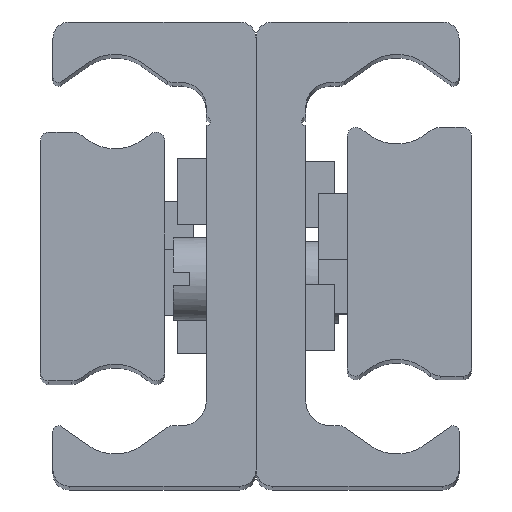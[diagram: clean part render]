
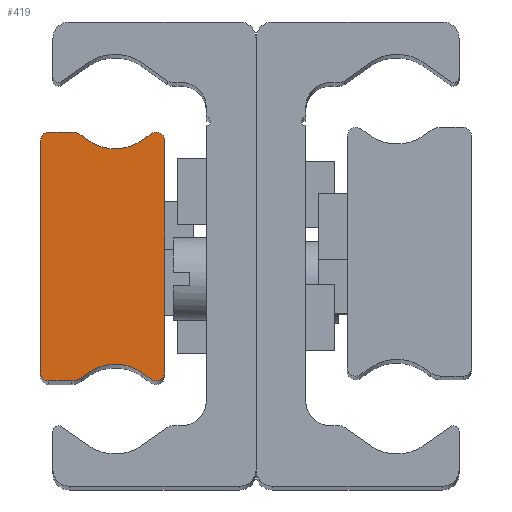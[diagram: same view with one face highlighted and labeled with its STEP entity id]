
A CAD part, top view. The second image highlights one B-rep face of the part: STEP entity #419.
In plain terms, the highlighted planar face has unit normal (0, 0, 1) as drawn and (0, 0, -1) by its records, which use the part's own axes.
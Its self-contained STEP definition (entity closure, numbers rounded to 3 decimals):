
#419 = ADVANCED_FACE( '', ( #828 ), #829, .F. );
#828 = FACE_OUTER_BOUND( '', #1218, .T. );
#829 = PLANE( '', #1219 );
#1218 = EDGE_LOOP( '', ( #2177, #2178, #2179, #2180, #2181, #2182, #2183, #2184, #2185, #2186, #2187, #2188, #2189, #2190, #2191, #2192 ) );
#1219 = AXIS2_PLACEMENT_3D( '', #2193, #2194, #2195 );
#2177 = ORIENTED_EDGE( '', *, *, #2361, .F. );
#2178 = ORIENTED_EDGE( '', *, *, #2380, .F. );
#2179 = ORIENTED_EDGE( '', *, *, #2399, .F. );
#2180 = ORIENTED_EDGE( '', *, *, #2649, .F. );
#2181 = ORIENTED_EDGE( '', *, *, #2337, .F. );
#2182 = ORIENTED_EDGE( '', *, *, #2650, .T. );
#2183 = ORIENTED_EDGE( '', *, *, #2375, .F. );
#2184 = ORIENTED_EDGE( '', *, *, #2371, .F. );
#2185 = ORIENTED_EDGE( '', *, *, #2449, .F. );
#2186 = ORIENTED_EDGE( '', *, *, #2580, .F. );
#2187 = ORIENTED_EDGE( '', *, *, #2384, .F. );
#2188 = ORIENTED_EDGE( '', *, *, #2624, .T. );
#2189 = ORIENTED_EDGE( '', *, *, #2638, .F. );
#2190 = ORIENTED_EDGE( '', *, *, #2589, .F. );
#2191 = ORIENTED_EDGE( '', *, *, #2603, .F. );
#2192 = ORIENTED_EDGE( '', *, *, #2621, .F. );
#2193 = CARTESIAN_POINT( '', ( 0.5, -7., -130. ) );
#2194 = DIRECTION( '', ( 0., 0., 1. ) );
#2195 = DIRECTION( '', ( 1., 0., 0. ) );
#2337 = EDGE_CURVE( '', #2784, #2786, #2787, .T. );
#2361 = EDGE_CURVE( '', #2826, #2828, #2829, .T. );
#2371 = EDGE_CURVE( '', #2844, #2846, #2847, .T. );
#2375 = EDGE_CURVE( '', #2846, #2852, #2853, .T. );
#2380 = EDGE_CURVE( '', #2858, #2826, #2860, .T. );
#2384 = EDGE_CURVE( '', #2865, #2867, #2868, .T. );
#2399 = EDGE_CURVE( '', #2891, #2858, #2893, .T. );
#2449 = EDGE_CURVE( '', #2967, #2844, #2969, .T. );
#2580 = EDGE_CURVE( '', #2867, #2967, #3155, .T. );
#2589 = EDGE_CURVE( '', #3163, #3165, #3166, .T. );
#2603 = EDGE_CURVE( '', #3181, #3163, #3183, .T. );
#2621 = EDGE_CURVE( '', #2828, #3181, #3204, .T. );
#2624 = EDGE_CURVE( '', #2865, #3206, #3208, .T. );
#2638 = EDGE_CURVE( '', #3165, #3206, #3222, .T. );
#2649 = EDGE_CURVE( '', #2786, #2891, #3234, .T. );
#2650 = EDGE_CURVE( '', #2784, #2852, #3235, .T. );
#2784 = VERTEX_POINT( '', #3410 );
#2786 = VERTEX_POINT( '', #3413 );
#2787 = LINE( '', #3414, #3415 );
#2826 = VERTEX_POINT( '', #3467 );
#2828 = VERTEX_POINT( '', #3470 );
#2829 = LINE( '', #3471, #3472 );
#2844 = VERTEX_POINT( '', #3492 );
#2846 = VERTEX_POINT( '', #3495 );
#2847 = CIRCLE( '', #3496, 0.523 );
#2852 = VERTEX_POINT( '', #3503 );
#2853 = LINE( '', #3504, #3505 );
#2858 = VERTEX_POINT( '', #3511 );
#2860 = CIRCLE( '', #3514, 0.5 );
#2865 = VERTEX_POINT( '', #3520 );
#2867 = VERTEX_POINT( '', #3523 );
#2868 = LINE( '', #3524, #3525 );
#2891 = VERTEX_POINT( '', #3556 );
#2893 = LINE( '', #3559, #3560 );
#2967 = VERTEX_POINT( '', #3658 );
#2969 = LINE( '', #3661, #3662 );
#3155 = CIRCLE( '', #3913, 0.523 );
#3163 = VERTEX_POINT( '', #3925 );
#3165 = VERTEX_POINT( '', #3928 );
#3166 = CIRCLE( '', #3929, 1. );
#3181 = VERTEX_POINT( '', #3949 );
#3183 = LINE( '', #3952, #3953 );
#3204 = CIRCLE( '', #3979, 0.5 );
#3206 = VERTEX_POINT( '', #3981 );
#3208 = CIRCLE( '', #3984, 2.778 );
#3222 = LINE( '', #4000, #4001 );
#3234 = CIRCLE( '', #4015, 1. );
#3235 = CIRCLE( '', #4016, 2.778 );
#3410 = CARTESIAN_POINT( '', ( 2.907, 6.997, -130. ) );
#3413 = CARTESIAN_POINT( '', ( 2.446, 7.319, -130. ) );
#3414 = CARTESIAN_POINT( '', ( 2.907, 6.997, -130. ) );
#3415 = VECTOR( '', #4119, 1000. );
#3467 = CARTESIAN_POINT( '', ( 0., 7., -130. ) );
#3470 = CARTESIAN_POINT( '', ( 0., -7., -130. ) );
#3471 = CARTESIAN_POINT( '', ( 0., 7., -130. ) );
#3472 = VECTOR( '', #4146, 1000. );
#3492 = CARTESIAN_POINT( '', ( 7.5, 6.977, -130. ) );
#3495 = CARTESIAN_POINT( '', ( 6.677, 7.405, -130. ) );
#3496 = AXIS2_PLACEMENT_3D( '', #4156, #4157, #4158 );
#3503 = CARTESIAN_POINT( '', ( 6.093, 6.997, -130. ) );
#3504 = CARTESIAN_POINT( '', ( 6.677, 7.405, -130. ) );
#3505 = VECTOR( '', #4161, 1000. );
#3511 = CARTESIAN_POINT( '', ( 0.5, 7.5, -130. ) );
#3514 = AXIS2_PLACEMENT_3D( '', #4167, #4168, #4169 );
#3520 = CARTESIAN_POINT( '', ( 6.093, -6.997, -130. ) );
#3523 = CARTESIAN_POINT( '', ( 6.677, -7.405, -130. ) );
#3524 = CARTESIAN_POINT( '', ( 6.093, -6.997, -130. ) );
#3525 = VECTOR( '', #4172, 1000. );
#3556 = CARTESIAN_POINT( '', ( 1.873, 7.5, -130. ) );
#3559 = CARTESIAN_POINT( '', ( 1.873, 7.5, -130. ) );
#3560 = VECTOR( '', #4188, 1000. );
#3658 = CARTESIAN_POINT( '', ( 7.5, -6.977, -130. ) );
#3661 = CARTESIAN_POINT( '', ( 7.5, -6.977, -130. ) );
#3662 = VECTOR( '', #4247, 1000. );
#3913 = AXIS2_PLACEMENT_3D( '', #4397, #4398, #4399 );
#3925 = CARTESIAN_POINT( '', ( 1.873, -7.5, -130. ) );
#3928 = CARTESIAN_POINT( '', ( 2.446, -7.319, -130. ) );
#3929 = AXIS2_PLACEMENT_3D( '', #4405, #4406, #4407 );
#3949 = CARTESIAN_POINT( '', ( 0.5, -7.5, -130. ) );
#3952 = CARTESIAN_POINT( '', ( 0.5, -7.5, -130. ) );
#3953 = VECTOR( '', #4417, 1000. );
#3979 = AXIS2_PLACEMENT_3D( '', #4444, #4445, #4446 );
#3981 = CARTESIAN_POINT( '', ( 2.907, -6.997, -130. ) );
#3984 = AXIS2_PLACEMENT_3D( '', #4448, #4449, #4450 );
#4000 = CARTESIAN_POINT( '', ( 2.446, -7.319, -130. ) );
#4001 = VECTOR( '', #4456, 1000. );
#4015 = AXIS2_PLACEMENT_3D( '', #4462, #4463, #4464 );
#4016 = AXIS2_PLACEMENT_3D( '', #4465, #4466, #4467 );
#4119 = DIRECTION( '', ( -0.819, 0.574, 0. ) );
#4146 = DIRECTION( '', ( 0., -1., 0. ) );
#4156 = CARTESIAN_POINT( '', ( 6.977, 6.977, -130. ) );
#4157 = DIRECTION( '', ( 0., 0., 1. ) );
#4158 = DIRECTION( '', ( 1., 0., 0. ) );
#4161 = DIRECTION( '', ( -0.819, -0.574, 0. ) );
#4167 = CARTESIAN_POINT( '', ( 0.5, 7., -130. ) );
#4168 = DIRECTION( '', ( 0., 0., 1. ) );
#4169 = DIRECTION( '', ( 1., 0., 0. ) );
#4172 = DIRECTION( '', ( 0.819, -0.574, 0. ) );
#4188 = DIRECTION( '', ( -1., 0., 0. ) );
#4247 = DIRECTION( '', ( 0., 1., 0. ) );
#4397 = CARTESIAN_POINT( '', ( 6.977, -6.977, -130. ) );
#4398 = DIRECTION( '', ( 0., 0., 1. ) );
#4399 = DIRECTION( '', ( 1., 0., 0. ) );
#4405 = CARTESIAN_POINT( '', ( 1.873, -6.5, -130. ) );
#4406 = DIRECTION( '', ( 0., 0., 1. ) );
#4407 = DIRECTION( '', ( 1., 0., 0. ) );
#4417 = DIRECTION( '', ( 1., 0., 0. ) );
#4444 = CARTESIAN_POINT( '', ( 0.5, -7., -130. ) );
#4445 = DIRECTION( '', ( 0., 0., 1. ) );
#4446 = DIRECTION( '', ( 1., 0., 0. ) );
#4448 = CARTESIAN_POINT( '', ( 4.5, -9.272, -130. ) );
#4449 = DIRECTION( '', ( 0., 0., 1. ) );
#4450 = DIRECTION( '', ( 1., 0., 0. ) );
#4456 = DIRECTION( '', ( 0.819, 0.574, 0. ) );
#4462 = CARTESIAN_POINT( '', ( 1.873, 6.5, -130. ) );
#4463 = DIRECTION( '', ( 0., 0., 1. ) );
#4464 = DIRECTION( '', ( 1., 0., 0. ) );
#4465 = CARTESIAN_POINT( '', ( 4.5, 9.272, -130. ) );
#4466 = DIRECTION( '', ( 0., 0., 1. ) );
#4467 = DIRECTION( '', ( 1., 0., 0. ) );
